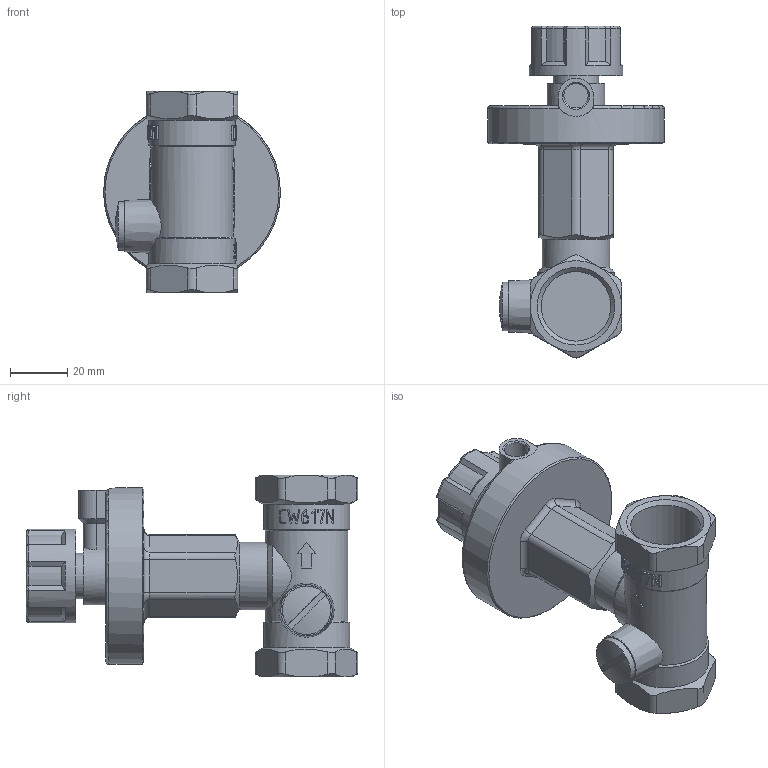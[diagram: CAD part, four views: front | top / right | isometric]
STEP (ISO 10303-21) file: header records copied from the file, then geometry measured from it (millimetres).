
FILE_DESCRIPTION(('STEP AP203'), '1');
FILE_NAME('VT.060.N.05', '', ('UNSPECIFIED'), ('UNSPECIFIED'), 'C3D Converter', 'C3D Toolkit', '');
FILE_SCHEMA(('CONFIG_CONTROL_DESIGN'));
Length unit declared in the file: millimetre
Bounding box: 62 x 116.31 x 70.8 mm (x, y, z)
Volume: 119449.2 mm3; surface area: 28295.9 mm2
Topology: 1 solids, 1 shells, 537 faces, 1479 edges, 971 vertices
Faces by surface type: extrusion 201, plane 190, cylinder 90, cone 33, torus 21, sphere 2
Full cylindrical faces by diameter (mm): 8.4 x1, 8.5 x1, 16 x1, 16.1 x1, 17 x1, 20.3 x1, 23.6 x1, 24.4 x2, 29 x1, 30.2 x2, 32.9 x1, 62 x1
Entity records: 28215 total; most frequent: CARTESIAN_POINT 15849, ORIENTED_EDGE 2862, DIRECTION 1919, EDGE_CURVE 1431, VERTEX_POINT 962, VECTOR 767, B_SPLINE_CURVE_WITH_KNOTS 755, EDGE_LOOP 589
